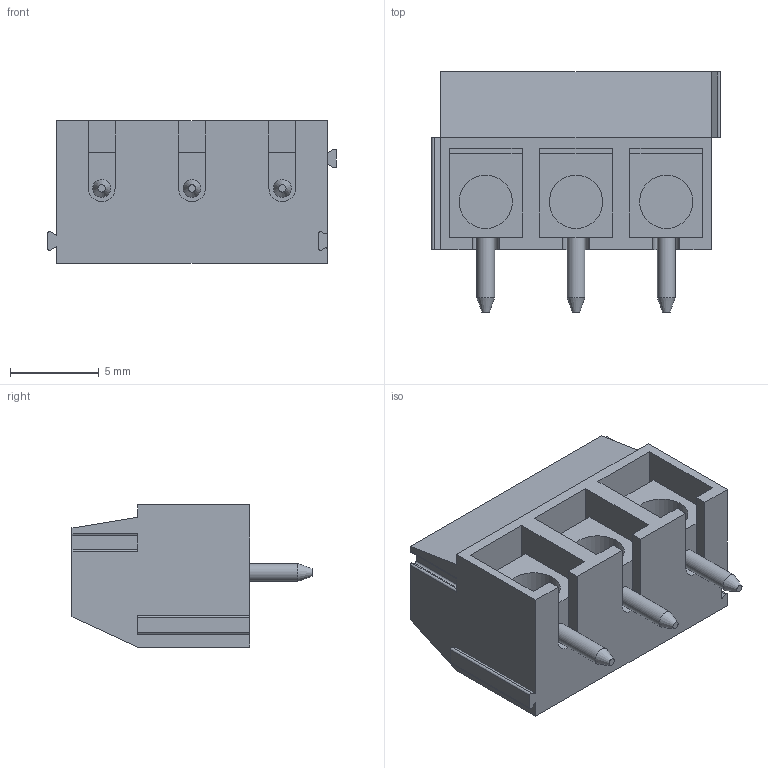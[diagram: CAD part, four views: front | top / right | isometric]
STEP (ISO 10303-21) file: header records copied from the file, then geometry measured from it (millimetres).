
FILE_DESCRIPTION( ( 'STEP AP214' ), '1' );
FILE_NAME( 'p:/temp/worker_143/temp/app_41_02019031307572236125043192d056f_000000_00_00_000000/format_1/PM 5.08_03_90 3.5SN OR BX 1760500000.stp', '2019-03-13T06:57:22', ( '' ), ( '' ), ' ', 'PARTsolutions', ' ' );
FILE_SCHEMA( ( 'AUTOMOTIVE_DESIGN { 1 0 10303 214 1 1 1 1 }' ) );
Length unit declared in the file: millimetre
Products named in the file (1): _PM 5.08/03/90 3.5SN OR BX 1760500000
Bounding box: 16.24 x 13.5 x 8 mm (x, y, z)
Volume: 820.4 mm3; surface area: 1126.1 mm2
Topology: 1 solids, 1 shells, 94 faces, 243 edges, 160 vertices
Faces by surface type: plane 67, cylinder 24, cone 3
Full cylindrical faces by diameter (mm): 1 x3, 3 x3, 4.1 x3
Entity records: 3531 total; most frequent: CARTESIAN_POINT 480, DIRECTION 469, ORIENTED_EDGE 456, EDGE_CURVE 228, LINE 177, VECTOR 177, VERTEX_POINT 157, AXIS2_PLACEMENT_3D 146
